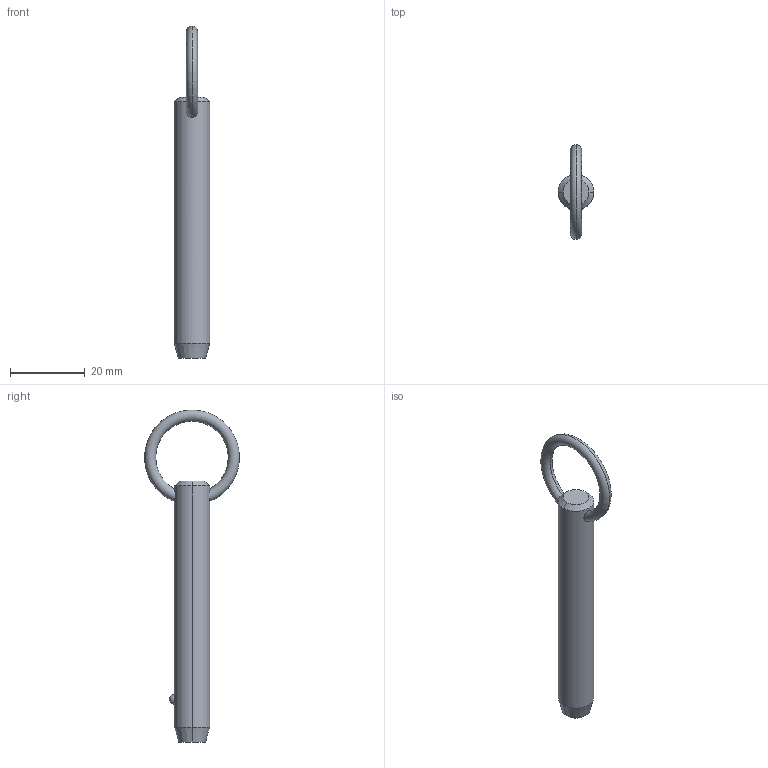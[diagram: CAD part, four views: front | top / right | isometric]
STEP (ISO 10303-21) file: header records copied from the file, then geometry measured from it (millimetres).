
FILE_DESCRIPTION (( 'STEP AP203' ), '1' );
FILE_NAME ('P1250.037-200.step', '2019-07-29T20:01:26', ( '' ), ( '' ), 'SwSTEP 2.0', 'SolidWorks 2017', '' );
FILE_SCHEMA (( 'CONFIG_CONTROL_DESIGN' ));
Length unit declared in the file: millimetre
Products named in the file (1): P1250.037-200
Bounding box: 9.52 x 25.39 x 88.9 mm (x, y, z)
Volume: 5323.1 mm3; surface area: 2731.3 mm2
Topology: 1 solids, 1 shells, 12 faces, 28 edges, 17 vertices
Faces by surface type: cone 4, torus 2, sphere 2, cylinder 2, plane 2
Entity records: 523 total; most frequent: CARTESIAN_POINT 190, DIRECTION 56, ORIENTED_EDGE 48, AXIS2_PLACEMENT_3D 25, EDGE_CURVE 24, EDGE_LOOP 15, VERTEX_POINT 15, CIRCLE 12
